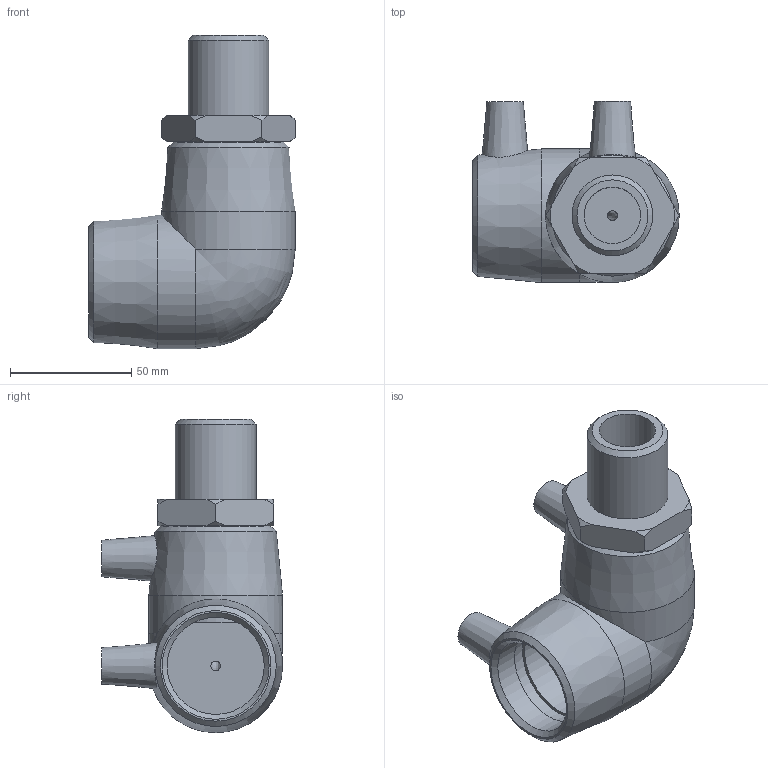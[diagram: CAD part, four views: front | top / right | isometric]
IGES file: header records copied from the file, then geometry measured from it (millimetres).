
Global section: file name: 497504040010.ipt; native system: Autodesk Inventor 2015; preprocessor: unknown; author: KIM; date: 20190421.151316; units: millimetre
Bounding box: 85 x 74.5 x 129 mm (x, y, z)
Volume: 225450.2 mm3; surface area: 53731.7 mm2
Topology: 2 solids, 2 shells, 60 faces, 146 edges, 98 vertices
Faces by surface type: plane 22, cone 19, revolution 12, cylinder 6, bspline 1
Full cylindrical faces by diameter (mm): 4 x2, 33.249 x1, 40 x1, 55 x2
